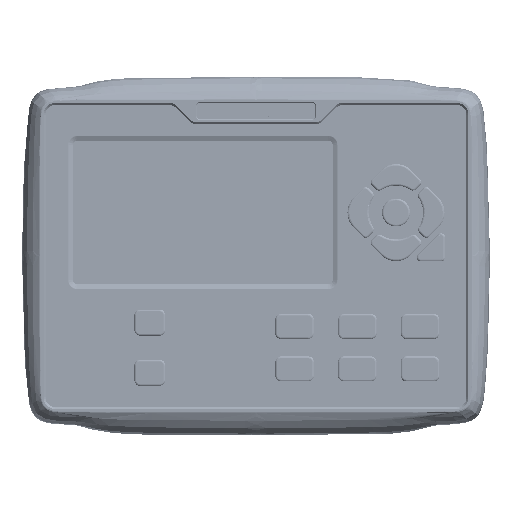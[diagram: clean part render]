
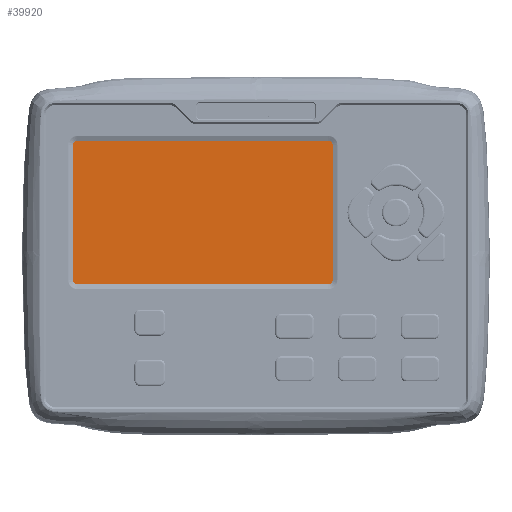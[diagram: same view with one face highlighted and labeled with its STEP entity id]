
A CAD part, top view. The second image highlights one B-rep face of the part: STEP entity #39920.
In plain terms, the highlighted planar face has unit normal (0, 0, 1).
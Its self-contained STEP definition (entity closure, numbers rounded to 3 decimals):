
#7691=DIRECTION('',(1.,0.,0.));
#7692=VECTOR('',#7691,130.);
#7693=CARTESIAN_POINT('',(-92.5,59.65,-2.));
#7694=LINE('',#7693,#7692);
#7703=DIRECTION('',(0.,-1.,0.));
#7704=VECTOR('',#7703,70.);
#7705=CARTESIAN_POINT('',(39.65,57.5,-2.));
#7706=LINE('',#7705,#7704);
#7715=DIRECTION('',(-1.,0.,0.));
#7716=VECTOR('',#7715,130.);
#7717=CARTESIAN_POINT('',(37.5,-14.65,-2.));
#7718=LINE('',#7717,#7716);
#7727=DIRECTION('',(0.,1.,0.));
#7728=VECTOR('',#7727,70.);
#7729=CARTESIAN_POINT('',(-94.65,-12.5,-2.));
#7730=LINE('',#7729,#7728);
#7739=CARTESIAN_POINT('',(37.5,57.5,-2.));
#7740=DIRECTION('',(0.,0.,1.));
#7741=DIRECTION('',(1.,0.,0.));
#7742=AXIS2_PLACEMENT_3D('',#7739,#7740,#7741);
#7744=CARTESIAN_POINT('',(37.5,-12.5,-2.));
#7745=DIRECTION('',(0.,0.,1.));
#7746=DIRECTION('',(0.,-1.,0.));
#7747=AXIS2_PLACEMENT_3D('',#7744,#7745,#7746);
#7749=CARTESIAN_POINT('',(-92.5,-12.5,-2.));
#7750=DIRECTION('',(0.,0.,1.));
#7751=DIRECTION('',(-1.,0.,0.));
#7752=AXIS2_PLACEMENT_3D('',#7749,#7750,#7751);
#7754=CARTESIAN_POINT('',(-92.5,57.5,-2.));
#7755=DIRECTION('',(0.,0.,1.));
#7756=DIRECTION('',(0.,1.,0.));
#7757=AXIS2_PLACEMENT_3D('',#7754,#7755,#7756);
#18293=CARTESIAN_POINT('',(39.65,57.5,-2.));
#18294=CARTESIAN_POINT('',(39.65,-12.5,-2.));
#18295=VERTEX_POINT('',#18293);
#18296=VERTEX_POINT('',#18294);
#18297=CARTESIAN_POINT('',(37.5,59.65,-2.));
#18298=VERTEX_POINT('',#18297);
#18299=CARTESIAN_POINT('',(-94.65,-12.5,-2.));
#18300=VERTEX_POINT('',#18299);
#18301=CARTESIAN_POINT('',(37.5,-14.65,-2.));
#18302=VERTEX_POINT('',#18301);
#18303=CARTESIAN_POINT('',(-92.5,59.65,-2.));
#18304=VERTEX_POINT('',#18303);
#18305=CARTESIAN_POINT('',(-92.5,-14.65,-2.));
#18306=VERTEX_POINT('',#18305);
#18307=CARTESIAN_POINT('',(-94.65,57.5,-2.));
#18308=VERTEX_POINT('',#18307);
#39905=CARTESIAN_POINT('',(-92.5,-12.5,-2.));
#39906=DIRECTION('',(0.,0.,-1.));
#39907=DIRECTION('',(-1.,0.,0.));
#39908=AXIS2_PLACEMENT_3D('',#39905,#39906,#39907);
#39909=PLANE('',#39908);
#39910=ORIENTED_EDGE('',*,*,#39797,.T.);
#39911=ORIENTED_EDGE('',*,*,#39812,.F.);
#39912=ORIENTED_EDGE('',*,*,#39826,.T.);
#39913=ORIENTED_EDGE('',*,*,#39840,.F.);
#39914=ORIENTED_EDGE('',*,*,#39854,.T.);
#39915=ORIENTED_EDGE('',*,*,#39868,.F.);
#39916=ORIENTED_EDGE('',*,*,#39883,.T.);
#39917=ORIENTED_EDGE('',*,*,#39897,.F.);
#39918=EDGE_LOOP('',(#39910,#39911,#39912,#39913,#39914,#39915,#39916,#39917));
#39919=FACE_OUTER_BOUND('',#39918,.F.);
#39920=ADVANCED_FACE('',(#39919),#39909,.F.);
#7743=CIRCLE('',#7742,2.15);
#7748=CIRCLE('',#7747,2.15);
#7753=CIRCLE('',#7752,2.15);
#7758=CIRCLE('',#7757,2.15);
#39797=EDGE_CURVE('',#18304,#18298,#7694,.T.);
#39812=EDGE_CURVE('',#18295,#18298,#7743,.T.);
#39826=EDGE_CURVE('',#18295,#18296,#7706,.T.);
#39840=EDGE_CURVE('',#18302,#18296,#7748,.T.);
#39854=EDGE_CURVE('',#18302,#18306,#7718,.T.);
#39868=EDGE_CURVE('',#18300,#18306,#7753,.T.);
#39883=EDGE_CURVE('',#18300,#18308,#7730,.T.);
#39897=EDGE_CURVE('',#18304,#18308,#7758,.T.);
